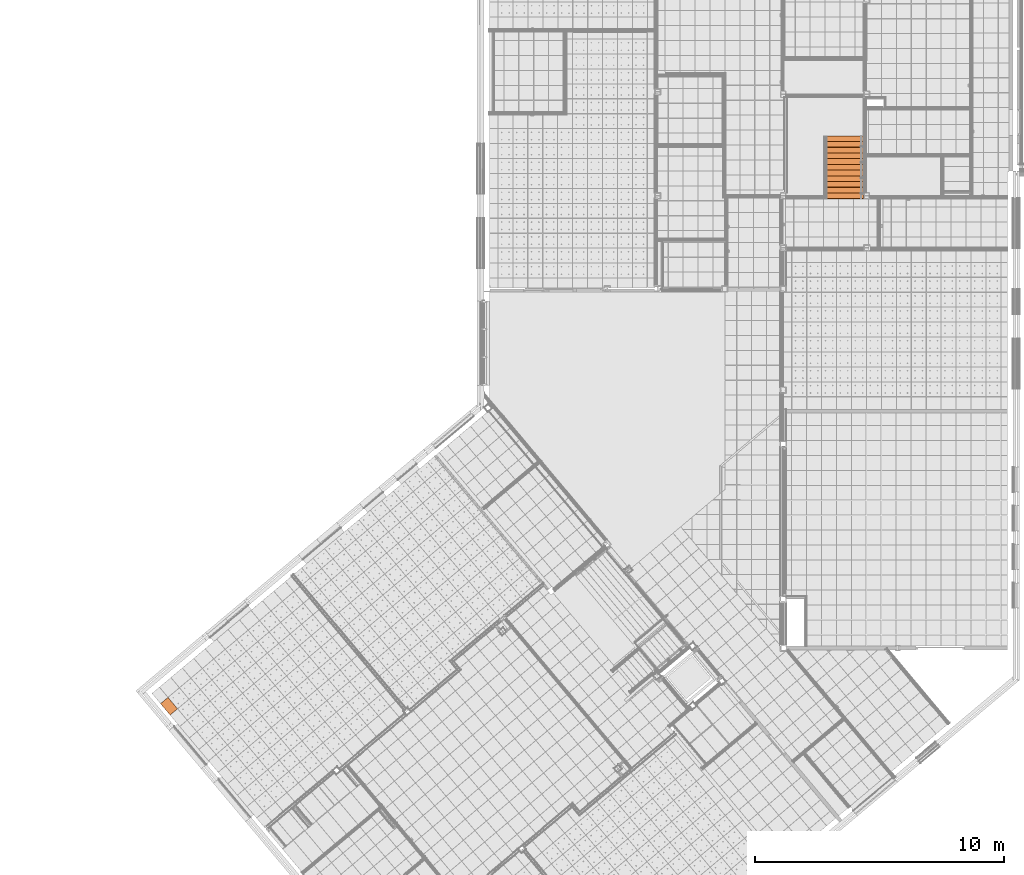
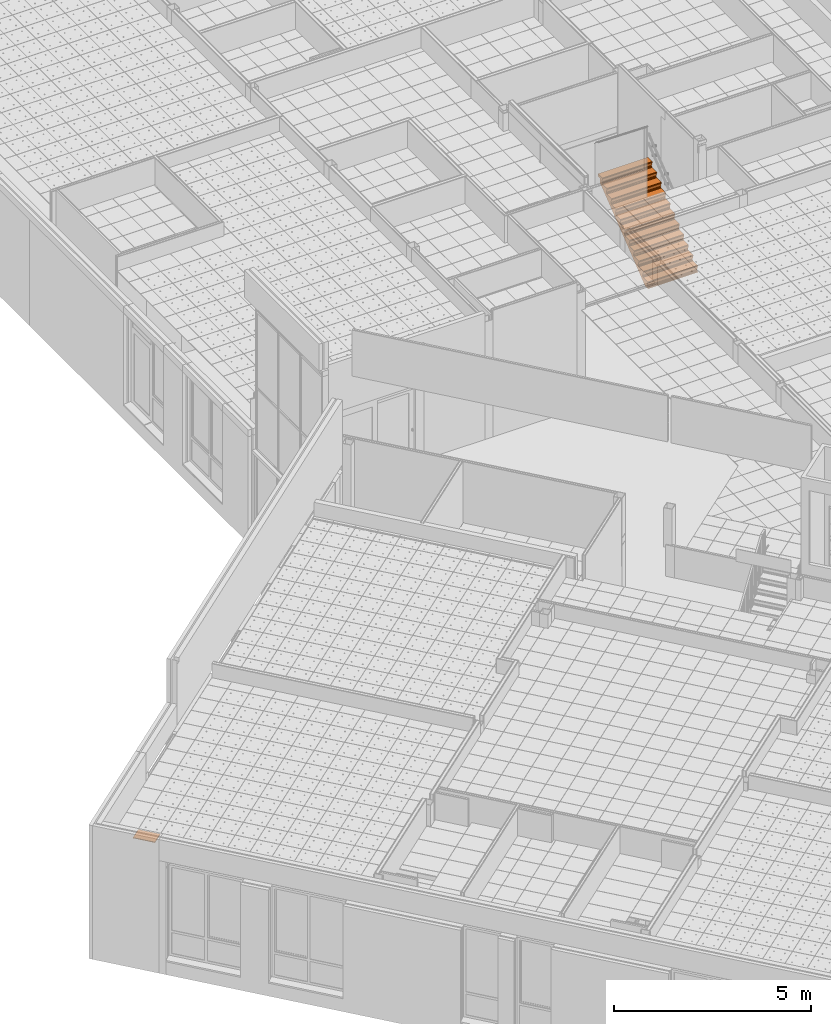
# One storey, part 198 of 338: 2 proxies, 1 element without a shape of its own.
"""IFC2X3 building model written with IfcOpenShell, lengths in millimetres."""

from ifc_helpers import new_model, entity, si_unit, converted_unit, derived_unit, money_unit, direction, frame, origin_with_axes, place, context, subcontext, project, spatial, faceted_brep, source, transform, mapped, material, type_object, type_shapes, element, aggregate, save


model = new_model("IFC2X3")

# Units and contexts
model_context = context("Model", 3, precision=0.01, world=origin_with_axes(), true_north=direction((0.0, 1.0)))
plan_context = context("Plan", 3, precision=0.01, world=origin_with_axes(), true_north=direction((0.0, 1.0)))
body_context = subcontext(model_context, "Body", "Model", "MODEL_VIEW")
ifc_project = project(units=[si_unit("LENGTHUNIT", "METRE", prefix="MILLI"), si_unit("AREAUNIT", "SQUARE_METRE"), si_unit("VOLUMEUNIT", "CUBIC_METRE"), converted_unit("PLANEANGLEUNIT", "DEGREE", entity("IfcPlaneAngleMeasure", 0.0174532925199), si_unit("PLANEANGLEUNIT", "RADIAN"), dimensions=[0, 0, 0, 0, 0, 0, 0]), money_unit("EUR"), converted_unit("TIMEUNIT", "Year", entity("IfcTimeMeasure", 31556926.0), si_unit("TIMEUNIT", "SECOND"), dimensions=[0, 0, 1, 0, 0, 0, 0]), si_unit("MASSUNIT", "GRAM", prefix="KILO"), si_unit("THERMODYNAMICTEMPERATUREUNIT", "DEGREE_CELSIUS"), si_unit("LUMINOUSINTENSITYUNIT", "LUMEN"), si_unit("ENERGYUNIT", "JOULE", prefix="MEGA"), derived_unit("THERMALCONDUCTANCEUNIT", [(si_unit("POWERUNIT", "WATT"), 1), (si_unit("LENGTHUNIT", "METRE"), -1), (si_unit("THERMODYNAMICTEMPERATUREUNIT", "KELVIN"), -1)]), derived_unit("SPECIFICHEATCAPACITYUNIT", [(si_unit("ENERGYUNIT", "JOULE"), 1), (si_unit("MASSUNIT", "GRAM", prefix="KILO"), -1), (si_unit("THERMODYNAMICTEMPERATUREUNIT", "KELVIN"), -1)]), derived_unit("MASSDENSITYUNIT", [(si_unit("MASSUNIT", "GRAM", prefix="KILO"), 1), (si_unit("VOLUMEUNIT", "CUBIC_METRE"), -1)])], contexts=[model_context, plan_context])

# Site, building, storey
site_placement = place(None, origin_with_axes())
site = spatial("IfcSite", under=ifc_project, at=site_placement, Name="Fortuinstraat Woensdrecht", CompositionType="ELEMENT")
building_placement = place(site_placement, origin_with_axes())
building = spatial("IfcBuilding", under=site, at=building_placement, Name="IKC Fortuna", CompositionType="ELEMENT")
storey_placement = place(building_placement, origin_with_axes())
storey = spatial("IfcBuildingStorey", under=building, at=storey_placement, Name="00 begane grond", CompositionType="ELEMENT", Elevation=0.0)

# Covering, proxy
covering_type = type_object("IfcCoveringType", Name="Curtain Wall Type", PredefinedType="CEILING")
covering_placement = place(storey_placement, frame((9775.85169731, -1002.28242867, 4660.0), z_axis=(0.0, 0.0, 1.0), x_axis=(1.0, 0.0, 0.0)))
covering = element("IfcCovering", 1, at=covering_placement, inside=storey, type_object=covering_type, Name="45_Plafondafwerking_P01", PredefinedType="CEILING")
ifc_material = material(Name="Gipsplaat")
building_element_proxy_type_1 = type_object("IfcBuildingElementProxyType", Name="394 x 600 x 20", PredefinedType="NOTDEFINED")
shared_shape_1 = source(origin_with_axes(), body_context, "Body", "Brep", [
    faceted_brep([(2.50000085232, 2.50001032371, -10.0), (391.98041436, 2.50000383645, -10.0), (391.98041436, 2.50000383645, 10.0), (2.50000085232, 2.50001032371, 10.0), (2.4999985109, 597.500005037, -10.0), (391.980418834, 597.500006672, -10.0), (391.980418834, 597.500006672, 10.0), (2.4999985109, 597.500005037, 10.0)], [[[0, 1, 2, 3]], [[0, 4, 5, 1]], [[1, 5, 6, 2]], [[3, 2, 6, 7]], [[4, 0, 3, 7]], [[5, 4, 7, 6]]]),
])
type_shapes(building_element_proxy_type_1, [shared_shape_1])
proxy_1_placement = place(covering_placement, frame((-8833.90053587, 419.918930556, 2.32702745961e-10), z_axis=(0.0, 0.0, 1.0), x_axis=(1.0, 0.0, 0.0)))
proxy_1 = element("IfcBuildingElementProxy", 2, at=proxy_1_placement, type_object=building_element_proxy_type_1, material=ifc_material, Name="__600x653 Rockfon Krios", context=body_context, shape_type="MappedRepresentation", body=[
    mapped(shared_shape_1, transform((-41.7416082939, 356.596884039, 0.0), x_axis=(-0.766044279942, -0.642787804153, 0.0), y_axis=(0.642787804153, -0.766044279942, 0.0), z_axis=(0.0, 0.0, 1.0))),
])
aggregate(covering, [proxy_1])

# Proxy
building_element_proxy_type_2 = type_object("IfcBuildingElementProxyType", Name="Trapelement beton 25 KM", PredefinedType="NOTDEFINED")
shared_shape_2 = source(origin_with_axes(), body_context, "Body", "Brep", [
    faceted_brep([(0.0, 0.0, -30.0), (0.0, 0.0, 0.0), (0.0, 1460.0, 0.0), (0.0, 1460.0, -30.0), (3.49953368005, 0.0, -7.71975380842e-06), (136.20230231, 0.0, -30.0), (296.975858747, 0.0, 97.0937205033), (230.0, 0.0, 181.818181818), (10.0, 0.0, 181.818181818), (6.17316567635, 0.0, 181.056977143), (2.92893218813, 0.0, 178.88924963), (0.761204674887, 0.0, 175.645016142), (0.0, 0.0, 171.818181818), (0.0, 0.0, 156.95), (37.59, 0.0, 53.68), (38.7845888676, 0.0, 50.3920369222), (39.9999489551, 0.0, 43.4992984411), (39.9999335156, 0.0, 36.500231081), (38.7845430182, 0.0, 29.6074979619), (36.3907064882, 0.0, 23.0305312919), (32.8911594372, 0.0, 16.969168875), (28.3922338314, 0.0, 11.6075821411), (23.0306272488, 0.0, 7.10868019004), (16.9692493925, 0.0, 3.609159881), (10.3922721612, 0.0, 1.21535236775), (3.49953368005, 1460.0, -7.71975390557e-06), (0.0, 1460.0, 156.95), (0.0, 1460.0, 171.818181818), (0.761204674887, 1460.0, 175.645016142), (2.92893218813, 1460.0, 178.88924963), (6.17316567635, 1460.0, 181.056977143), (10.0, 1460.0, 181.818181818), (230.0, 1460.0, 181.818181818), (296.975858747, 1460.0, 97.0937205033), (136.20230231, 1460.0, -30.0), (10.3922721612, 1460.0, 1.21535236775), (16.9692493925, 1460.0, 3.609159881), (23.0306272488, 1460.0, 7.10868019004), (28.3922338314, 1460.0, 11.6075821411), (32.8911594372, 1460.0, 16.969168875), (36.3907064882, 1460.0, 23.0305312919), (38.7845430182, 1460.0, 29.6074979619), (39.9999335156, 1460.0, 36.500231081), (39.9999489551, 1460.0, 43.4992984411), (38.7845888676, 1460.0, 50.3920369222), (37.59, 1460.0, 53.68)], [[[0, 1, 2, 3]], [[4, 1, 0, 5, 6, 7, 8, 9, 10, 11, 12, 13, 14, 15, 16, 17, 18, 19, 20, 21, 22, 23, 24]], [[1, 4, 25, 2]], [[26, 27, 28, 29, 30, 31, 32, 33, 34, 3, 2, 25, 35, 36, 37, 38, 39, 40, 41, 42, 43, 44, 45]], [[0, 3, 34, 5]], [[6, 5, 34, 33]], [[7, 6, 33, 32]], [[8, 7, 32, 31]], [[9, 8, 31, 30]], [[29, 10, 9, 30]], [[11, 10, 29, 28]], [[12, 11, 28, 27]], [[13, 12, 27, 26]], [[13, 26, 45, 14]], [[15, 14, 45, 44]], [[16, 15, 44, 43]], [[17, 16, 43, 42]], [[18, 17, 42, 41]], [[19, 18, 41, 40]], [[20, 19, 40, 39]], [[21, 20, 39, 38]], [[22, 21, 38, 37]], [[23, 22, 37, 36]], [[24, 23, 36, 35]], [[25, 4, 24, 35]]]),
    faceted_brep([(460.0, 1460.0, 363.636363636), (240.0, 1460.0, 363.636363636), (240.0, 0.0, 363.636363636), (460.0, 0.0, 363.636363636), (526.975858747, 1460.0, 278.911902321), (296.975858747, 1460.0, 97.0937205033), (230.0, 1460.0, 181.818181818), (233.49953368, 1460.0, 181.818174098), (240.392272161, 1460.0, 183.033534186), (246.969249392, 1460.0, 185.427341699), (253.030627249, 1460.0, 188.926862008), (258.392233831, 1460.0, 193.425763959), (261.225007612, 1460.0, 196.818181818), (262.891159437, 1460.0, 198.787350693), (266.390706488, 1460.0, 204.84871311), (268.784543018, 1460.0, 211.42567978), (269.999933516, 1460.0, 218.318412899), (269.999948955, 1460.0, 225.317480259), (268.784588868, 1460.0, 232.21021874), (267.59, 1460.0, 235.498181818), (230.0, 1460.0, 338.768181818), (230.0, 1460.0, 353.636363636), (230.761204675, 1460.0, 357.46319796), (232.928932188, 1460.0, 360.707431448), (236.173165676, 1460.0, 362.875158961), (236.173165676, 0.0, 362.875158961), (232.928932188, 0.0, 360.707431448), (230.761204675, 0.0, 357.46319796), (230.0, 0.0, 353.636363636), (230.0, 0.0, 338.768181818), (267.59, 0.0, 235.498181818), (268.784588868, 0.0, 232.21021874), (269.999948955, 0.0, 225.317480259), (269.999933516, 0.0, 218.318412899), (268.784543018, 0.0, 211.42567978), (266.390706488, 0.0, 204.84871311), (262.891159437, 0.0, 198.787350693), (261.225007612, 0.0, 196.818181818), (258.392233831, 0.0, 193.425763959), (253.030627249, 0.0, 188.926862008), (246.969249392, 0.0, 185.427341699), (240.392272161, 0.0, 183.033534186), (233.49953368, 0.0, 181.818174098), (230.0, 0.0, 181.818181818), (296.975858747, 0.0, 97.0937205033), (526.975858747, 0.0, 278.911902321)], [[[0, 1, 2, 3]], [[0, 4, 5, 6, 7, 8, 9, 10, 11, 12, 13, 14, 15, 16, 17, 18, 19, 20, 21, 22, 23, 24, 1]], [[1, 24, 25, 2]], [[3, 2, 25, 26, 27, 28, 29, 30, 31, 32, 33, 34, 35, 36, 37, 38, 39, 40, 41, 42, 43, 44, 45]], [[4, 0, 3, 45]], [[5, 4, 45, 44]], [[6, 5, 44, 43]], [[7, 6, 43, 42]], [[8, 7, 42, 41]], [[9, 8, 41, 40]], [[10, 9, 40, 39]], [[11, 10, 39, 38]], [[12, 11, 38, 37]], [[13, 12, 37, 36]], [[14, 13, 36, 35]], [[15, 14, 35, 34]], [[16, 15, 34, 33]], [[17, 16, 33, 32]], [[18, 17, 32, 31]], [[19, 18, 31, 30]], [[20, 19, 30, 29]], [[21, 20, 29, 28]], [[22, 21, 28, 27]], [[23, 22, 27, 26]], [[24, 23, 26, 25]]]),
    faceted_brep([(690.0, 1460.0, 545.454545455), (470.0, 1460.0, 545.454545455), (470.0, 0.0, 545.454545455), (690.0, 0.0, 545.454545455), (756.975858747, 1460.0, 460.73008414), (526.975858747, 1460.0, 278.911902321), (460.0, 1460.0, 363.636363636), (463.49953368, 1460.0, 363.636355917), (470.392272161, 1460.0, 364.851716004), (476.969249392, 1460.0, 367.245523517), (483.030627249, 1460.0, 370.745043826), (488.392233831, 1460.0, 375.243945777), (491.225007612, 1460.0, 378.636363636), (492.891159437, 1460.0, 380.605532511), (496.390706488, 1460.0, 386.666894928), (498.784543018, 1460.0, 393.243861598), (499.999933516, 1460.0, 400.136594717), (499.999948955, 1460.0, 407.135662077), (498.784588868, 1460.0, 414.028400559), (497.59, 1460.0, 417.316363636), (460.0, 1460.0, 520.586363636), (460.0, 1460.0, 535.454545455), (460.761204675, 1460.0, 539.281379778), (462.928932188, 1460.0, 542.525613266), (466.173165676, 1460.0, 544.69334078), (466.173165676, 0.0, 544.69334078), (462.928932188, 0.0, 542.525613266), (460.761204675, 0.0, 539.281379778), (460.0, 0.0, 535.454545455), (460.0, 0.0, 520.586363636), (497.59, 0.0, 417.316363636), (498.784588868, 0.0, 414.028400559), (499.999948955, 0.0, 407.135662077), (499.999933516, 0.0, 400.136594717), (498.784543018, 0.0, 393.243861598), (496.390706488, 0.0, 386.666894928), (492.891159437, 0.0, 380.605532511), (491.225007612, 0.0, 378.636363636), (488.392233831, 0.0, 375.243945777), (483.030627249, 0.0, 370.745043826), (476.969249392, 0.0, 367.245523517), (470.392272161, 0.0, 364.851716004), (463.49953368, 0.0, 363.636355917), (460.0, 0.0, 363.636363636), (526.975858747, 0.0, 278.911902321), (756.975858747, 0.0, 460.73008414)], [[[0, 1, 2, 3]], [[0, 4, 5, 6, 7, 8, 9, 10, 11, 12, 13, 14, 15, 16, 17, 18, 19, 20, 21, 22, 23, 24, 1]], [[1, 24, 25, 2]], [[3, 2, 25, 26, 27, 28, 29, 30, 31, 32, 33, 34, 35, 36, 37, 38, 39, 40, 41, 42, 43, 44, 45]], [[4, 0, 3, 45]], [[5, 4, 45, 44]], [[6, 5, 44, 43]], [[7, 6, 43, 42]], [[8, 7, 42, 41]], [[9, 8, 41, 40]], [[10, 9, 40, 39]], [[11, 10, 39, 38]], [[12, 11, 38, 37]], [[13, 12, 37, 36]], [[14, 13, 36, 35]], [[15, 14, 35, 34]], [[16, 15, 34, 33]], [[17, 16, 33, 32]], [[18, 17, 32, 31]], [[19, 18, 31, 30]], [[20, 19, 30, 29]], [[21, 20, 29, 28]], [[22, 21, 28, 27]], [[23, 22, 27, 26]], [[24, 23, 26, 25]]]),
    faceted_brep([(920.0, 1460.0, 727.272727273), (700.0, 1460.0, 727.272727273), (700.0, 0.0, 727.272727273), (920.0, 0.0, 727.272727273), (986.975858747, 1460.0, 642.548265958), (756.975858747, 1460.0, 460.73008414), (690.0, 1460.0, 545.454545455), (693.49953368, 1460.0, 545.454537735), (700.392272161, 1460.0, 546.669897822), (706.969249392, 1460.0, 549.063705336), (713.030627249, 1460.0, 552.563225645), (718.392233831, 1460.0, 557.062127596), (721.225007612, 1460.0, 560.454545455), (722.891159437, 1460.0, 562.42371433), (726.390706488, 1460.0, 568.485076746), (728.784543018, 1460.0, 575.062043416), (729.999933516, 1460.0, 581.954776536), (729.999948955, 1460.0, 588.953843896), (728.784588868, 1460.0, 595.846582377), (727.59, 1460.0, 599.134545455), (690.0, 1460.0, 702.404545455), (690.0, 1460.0, 717.272727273), (690.761204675, 1460.0, 721.099561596), (692.928932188, 1460.0, 724.343795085), (696.173165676, 1460.0, 726.511522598), (696.173165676, 0.0, 726.511522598), (692.928932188, 0.0, 724.343795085), (690.761204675, 0.0, 721.099561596), (690.0, 0.0, 717.272727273), (690.0, 0.0, 702.404545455), (727.59, 0.0, 599.134545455), (728.784588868, 0.0, 595.846582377), (729.999948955, 0.0, 588.953843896), (729.999933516, 0.0, 581.954776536), (728.784543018, 0.0, 575.062043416), (726.390706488, 0.0, 568.485076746), (722.891159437, 0.0, 562.42371433), (721.225007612, 0.0, 560.454545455), (718.392233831, 0.0, 557.062127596), (713.030627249, 0.0, 552.563225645), (706.969249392, 0.0, 549.063705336), (700.392272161, 0.0, 546.669897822), (693.49953368, 0.0, 545.454537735), (690.0, 0.0, 545.454545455), (756.975858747, 0.0, 460.73008414), (986.975858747, 0.0, 642.548265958)], [[[0, 1, 2, 3]], [[0, 4, 5, 6, 7, 8, 9, 10, 11, 12, 13, 14, 15, 16, 17, 18, 19, 20, 21, 22, 23, 24, 1]], [[1, 24, 25, 2]], [[3, 2, 25, 26, 27, 28, 29, 30, 31, 32, 33, 34, 35, 36, 37, 38, 39, 40, 41, 42, 43, 44, 45]], [[4, 0, 3, 45]], [[5, 4, 45, 44]], [[6, 5, 44, 43]], [[7, 6, 43, 42]], [[8, 7, 42, 41]], [[9, 8, 41, 40]], [[10, 9, 40, 39]], [[11, 10, 39, 38]], [[12, 11, 38, 37]], [[13, 12, 37, 36]], [[14, 13, 36, 35]], [[15, 14, 35, 34]], [[16, 15, 34, 33]], [[17, 16, 33, 32]], [[18, 17, 32, 31]], [[19, 18, 31, 30]], [[20, 19, 30, 29]], [[21, 20, 29, 28]], [[22, 21, 28, 27]], [[23, 22, 27, 26]], [[24, 23, 26, 25]]]),
    faceted_brep([(1150.0, 1460.0, 909.090909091), (930.0, 1460.0, 909.090909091), (930.0, 0.0, 909.090909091), (1150.0, 0.0, 909.090909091), (1216.97585875, 1460.0, 824.366447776), (986.975858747, 1460.0, 642.548265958), (920.0, 1460.0, 727.272727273), (923.49953368, 1460.0, 727.272719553), (930.392272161, 1460.0, 728.48807964), (936.969249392, 1460.0, 730.881887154), (943.030627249, 1460.0, 734.381407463), (948.392233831, 1460.0, 738.880309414), (951.225007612, 1460.0, 742.272727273), (952.891159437, 1460.0, 744.241896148), (956.390706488, 1460.0, 750.303258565), (958.784543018, 1460.0, 756.880225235), (959.999933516, 1460.0, 763.772958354), (959.999948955, 1460.0, 770.772025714), (958.784588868, 1460.0, 777.664764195), (957.59, 1460.0, 780.952727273), (920.0, 1460.0, 884.222727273), (920.0, 1460.0, 899.090909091), (920.761204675, 1460.0, 902.917743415), (922.928932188, 1460.0, 906.161976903), (926.173165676, 1460.0, 908.329704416), (926.173165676, 0.0, 908.329704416), (922.928932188, 0.0, 906.161976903), (920.761204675, 0.0, 902.917743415), (920.0, 0.0, 899.090909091), (920.0, 0.0, 884.222727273), (957.59, 0.0, 780.952727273), (958.784588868, 0.0, 777.664764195), (959.999948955, 0.0, 770.772025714), (959.999933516, 0.0, 763.772958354), (958.784543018, 0.0, 756.880225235), (956.390706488, 0.0, 750.303258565), (952.891159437, 0.0, 744.241896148), (951.225007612, 0.0, 742.272727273), (948.392233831, 0.0, 738.880309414), (943.030627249, 0.0, 734.381407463), (936.969249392, 0.0, 730.881887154), (930.392272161, 0.0, 728.48807964), (923.49953368, 0.0, 727.272719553), (920.0, 0.0, 727.272727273), (986.975858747, 0.0, 642.548265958), (1216.97585875, 0.0, 824.366447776)], [[[0, 1, 2, 3]], [[0, 4, 5, 6, 7, 8, 9, 10, 11, 12, 13, 14, 15, 16, 17, 18, 19, 20, 21, 22, 23, 24, 1]], [[1, 24, 25, 2]], [[3, 2, 25, 26, 27, 28, 29, 30, 31, 32, 33, 34, 35, 36, 37, 38, 39, 40, 41, 42, 43, 44, 45]], [[4, 0, 3, 45]], [[5, 4, 45, 44]], [[6, 5, 44, 43]], [[7, 6, 43, 42]], [[8, 7, 42, 41]], [[9, 8, 41, 40]], [[10, 9, 40, 39]], [[11, 10, 39, 38]], [[12, 11, 38, 37]], [[13, 12, 37, 36]], [[14, 13, 36, 35]], [[15, 14, 35, 34]], [[16, 15, 34, 33]], [[17, 16, 33, 32]], [[18, 17, 32, 31]], [[19, 18, 31, 30]], [[20, 19, 30, 29]], [[21, 20, 29, 28]], [[22, 21, 28, 27]], [[23, 22, 27, 26]], [[24, 23, 26, 25]]]),
    faceted_brep([(1380.0, 1460.0, 1090.90909091), (1160.0, 1460.0, 1090.90909091), (1160.0, 0.0, 1090.90909091), (1380.0, 0.0, 1090.90909091), (1446.97585875, 1460.0, 1006.18462959), (1216.97585875, 1460.0, 824.366447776), (1150.0, 1460.0, 909.090909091), (1153.49953368, 1460.0, 909.090901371), (1160.39227216, 1460.0, 910.306261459), (1166.96924939, 1460.0, 912.700068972), (1173.03062725, 1460.0, 916.199589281), (1178.39223383, 1460.0, 920.698491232), (1181.22500761, 1460.0, 924.090909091), (1182.89115944, 1460.0, 926.060077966), (1186.39070649, 1460.0, 932.121440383), (1188.78454302, 1460.0, 938.698407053), (1189.99993352, 1460.0, 945.591140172), (1189.99994896, 1460.0, 952.590207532), (1188.78458887, 1460.0, 959.482946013), (1187.59, 1460.0, 962.770909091), (1150.0, 1460.0, 1066.04090909), (1150.0, 1460.0, 1080.90909091), (1150.76120467, 1460.0, 1084.73592523), (1152.92893219, 1460.0, 1087.98015872), (1156.17316568, 1460.0, 1090.14788623), (1156.17316568, 0.0, 1090.14788623), (1152.92893219, 0.0, 1087.98015872), (1150.76120467, 0.0, 1084.73592523), (1150.0, 0.0, 1080.90909091), (1150.0, 0.0, 1066.04090909), (1187.59, 0.0, 962.770909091), (1188.78458887, 0.0, 959.482946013), (1189.99994896, 0.0, 952.590207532), (1189.99993352, 0.0, 945.591140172), (1188.78454302, 0.0, 938.698407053), (1186.39070649, 0.0, 932.121440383), (1182.89115944, 0.0, 926.060077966), (1181.22500761, 0.0, 924.090909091), (1178.39223383, 0.0, 920.698491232), (1173.03062725, 0.0, 916.199589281), (1166.96924939, 0.0, 912.700068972), (1160.39227216, 0.0, 910.306261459), (1153.49953368, 0.0, 909.090901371), (1150.0, 0.0, 909.090909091), (1216.97585875, 0.0, 824.366447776), (1446.97585875, 0.0, 1006.18462959)], [[[0, 1, 2, 3]], [[0, 4, 5, 6, 7, 8, 9, 10, 11, 12, 13, 14, 15, 16, 17, 18, 19, 20, 21, 22, 23, 24, 1]], [[1, 24, 25, 2]], [[3, 2, 25, 26, 27, 28, 29, 30, 31, 32, 33, 34, 35, 36, 37, 38, 39, 40, 41, 42, 43, 44, 45]], [[4, 0, 3, 45]], [[5, 4, 45, 44]], [[6, 5, 44, 43]], [[7, 6, 43, 42]], [[8, 7, 42, 41]], [[9, 8, 41, 40]], [[10, 9, 40, 39]], [[11, 10, 39, 38]], [[12, 11, 38, 37]], [[13, 12, 37, 36]], [[14, 13, 36, 35]], [[15, 14, 35, 34]], [[16, 15, 34, 33]], [[17, 16, 33, 32]], [[18, 17, 32, 31]], [[19, 18, 31, 30]], [[20, 19, 30, 29]], [[21, 20, 29, 28]], [[22, 21, 28, 27]], [[23, 22, 27, 26]], [[24, 23, 26, 25]]]),
    faceted_brep([(1610.0, 1460.0, 1272.72727273), (1390.0, 1460.0, 1272.72727273), (1390.0, 0.0, 1272.72727273), (1610.0, 0.0, 1272.72727273), (1676.97585875, 1460.0, 1188.00281141), (1446.97585875, 1460.0, 1006.18462959), (1380.0, 1460.0, 1090.90909091), (1383.49953368, 1460.0, 1090.90908319), (1390.39227216, 1460.0, 1092.12444328), (1396.96924939, 1460.0, 1094.51825079), (1403.03062725, 1460.0, 1098.0177711), (1408.39223383, 1460.0, 1102.51667305), (1411.22500761, 1460.0, 1105.90909091), (1412.89115944, 1460.0, 1107.87825978), (1416.39070649, 1460.0, 1113.9396222), (1418.78454302, 1460.0, 1120.51658887), (1419.99993352, 1460.0, 1127.40932199), (1419.99994896, 1460.0, 1134.40838935), (1418.78458887, 1460.0, 1141.30112783), (1417.59, 1460.0, 1144.58909091), (1380.0, 1460.0, 1247.85909091), (1380.0, 1460.0, 1262.72727273), (1380.76120467, 1460.0, 1266.55410705), (1382.92893219, 1460.0, 1269.79834054), (1386.17316568, 1460.0, 1271.96606805), (1386.17316568, 0.0, 1271.96606805), (1382.92893219, 0.0, 1269.79834054), (1380.76120467, 0.0, 1266.55410705), (1380.0, 0.0, 1262.72727273), (1380.0, 0.0, 1247.85909091), (1417.59, 0.0, 1144.58909091), (1418.78458887, 0.0, 1141.30112783), (1419.99994896, 0.0, 1134.40838935), (1419.99993352, 0.0, 1127.40932199), (1418.78454302, 0.0, 1120.51658887), (1416.39070649, 0.0, 1113.9396222), (1412.89115944, 0.0, 1107.87825978), (1411.22500761, 0.0, 1105.90909091), (1408.39223383, 0.0, 1102.51667305), (1403.03062725, 0.0, 1098.0177711), (1396.96924939, 0.0, 1094.51825079), (1390.39227216, 0.0, 1092.12444328), (1383.49953368, 0.0, 1090.90908319), (1380.0, 0.0, 1090.90909091), (1446.97585875, 0.0, 1006.18462959), (1676.97585875, 0.0, 1188.00281141)], [[[0, 1, 2, 3]], [[0, 4, 5, 6, 7, 8, 9, 10, 11, 12, 13, 14, 15, 16, 17, 18, 19, 20, 21, 22, 23, 24, 1]], [[1, 24, 25, 2]], [[3, 2, 25, 26, 27, 28, 29, 30, 31, 32, 33, 34, 35, 36, 37, 38, 39, 40, 41, 42, 43, 44, 45]], [[4, 0, 3, 45]], [[5, 4, 45, 44]], [[6, 5, 44, 43]], [[7, 6, 43, 42]], [[8, 7, 42, 41]], [[9, 8, 41, 40]], [[10, 9, 40, 39]], [[11, 10, 39, 38]], [[12, 11, 38, 37]], [[13, 12, 37, 36]], [[14, 13, 36, 35]], [[15, 14, 35, 34]], [[16, 15, 34, 33]], [[17, 16, 33, 32]], [[18, 17, 32, 31]], [[19, 18, 31, 30]], [[20, 19, 30, 29]], [[21, 20, 29, 28]], [[22, 21, 28, 27]], [[23, 22, 27, 26]], [[24, 23, 26, 25]]]),
    faceted_brep([(1840.0, 1460.0, 1454.54545455), (1620.0, 1460.0, 1454.54545455), (1620.0, 0.0, 1454.54545455), (1840.0, 0.0, 1454.54545455), (1906.97585875, 1460.0, 1369.82099323), (1676.97585875, 1460.0, 1188.00281141), (1610.0, 1460.0, 1272.72727273), (1613.49953368, 1460.0, 1272.72726501), (1620.39227216, 1460.0, 1273.9426251), (1626.96924939, 1460.0, 1276.33643261), (1633.03062725, 1460.0, 1279.83595292), (1638.39223383, 1460.0, 1284.33485487), (1641.22500761, 1460.0, 1287.72727273), (1642.89115944, 1460.0, 1289.6964416), (1646.39070649, 1460.0, 1295.75780402), (1648.78454302, 1460.0, 1302.33477069), (1649.99993352, 1460.0, 1309.22750381), (1649.99994896, 1460.0, 1316.22657117), (1648.78458887, 1460.0, 1323.11930965), (1647.59, 1460.0, 1326.40727273), (1610.0, 1460.0, 1429.67727273), (1610.0, 1460.0, 1444.54545455), (1610.76120467, 1460.0, 1448.37228887), (1612.92893219, 1460.0, 1451.61652236), (1616.17316568, 1460.0, 1453.78424987), (1616.17316568, 0.0, 1453.78424987), (1612.92893219, 0.0, 1451.61652236), (1610.76120467, 0.0, 1448.37228887), (1610.0, 0.0, 1444.54545455), (1610.0, 0.0, 1429.67727273), (1647.59, 0.0, 1326.40727273), (1648.78458887, 0.0, 1323.11930965), (1649.99994896, 0.0, 1316.22657117), (1649.99993352, 0.0, 1309.22750381), (1648.78454302, 0.0, 1302.33477069), (1646.39070649, 0.0, 1295.75780402), (1642.89115944, 0.0, 1289.6964416), (1641.22500761, 0.0, 1287.72727273), (1638.39223383, 0.0, 1284.33485487), (1633.03062725, 0.0, 1279.83595292), (1626.96924939, 0.0, 1276.33643261), (1620.39227216, 0.0, 1273.9426251), (1613.49953368, 0.0, 1272.72726501), (1610.0, 0.0, 1272.72727273), (1676.97585875, 0.0, 1188.00281141), (1906.97585875, 0.0, 1369.82099323)], [[[0, 1, 2, 3]], [[0, 4, 5, 6, 7, 8, 9, 10, 11, 12, 13, 14, 15, 16, 17, 18, 19, 20, 21, 22, 23, 24, 1]], [[1, 24, 25, 2]], [[3, 2, 25, 26, 27, 28, 29, 30, 31, 32, 33, 34, 35, 36, 37, 38, 39, 40, 41, 42, 43, 44, 45]], [[4, 0, 3, 45]], [[5, 4, 45, 44]], [[6, 5, 44, 43]], [[7, 6, 43, 42]], [[8, 7, 42, 41]], [[9, 8, 41, 40]], [[10, 9, 40, 39]], [[11, 10, 39, 38]], [[12, 11, 38, 37]], [[13, 12, 37, 36]], [[14, 13, 36, 35]], [[15, 14, 35, 34]], [[16, 15, 34, 33]], [[17, 16, 33, 32]], [[18, 17, 32, 31]], [[19, 18, 31, 30]], [[20, 19, 30, 29]], [[21, 20, 29, 28]], [[22, 21, 28, 27]], [[23, 22, 27, 26]], [[24, 23, 26, 25]]]),
    faceted_brep([(2070.0, 1460.0, 1636.36363636), (1850.0, 1460.0, 1636.36363636), (1850.0, 0.0, 1636.36363636), (2070.0, 0.0, 1636.36363636), (2136.97585875, 1460.0, 1551.63917505), (1906.97585875, 1460.0, 1369.82099323), (1840.0, 1460.0, 1454.54545455), (1843.49953368, 1460.0, 1454.54544683), (1850.39227216, 1460.0, 1455.76080691), (1856.96924939, 1460.0, 1458.15461443), (1863.03062725, 1460.0, 1461.65413474), (1868.39223383, 1460.0, 1466.15303669), (1871.22500761, 1460.0, 1469.54545455), (1872.89115944, 1460.0, 1471.51462342), (1876.39070649, 1460.0, 1477.57598584), (1878.78454302, 1460.0, 1484.15295251), (1879.99993352, 1460.0, 1491.04568563), (1879.99994896, 1460.0, 1498.04475299), (1878.78458887, 1460.0, 1504.93749147), (1877.59, 1460.0, 1508.22545455), (1840.0, 1460.0, 1611.49545455), (1840.0, 1460.0, 1626.36363636), (1840.76120467, 1460.0, 1630.19047069), (1842.92893219, 1460.0, 1633.43470418), (1846.17316568, 1460.0, 1635.60243169), (1846.17316568, 0.0, 1635.60243169), (1842.92893219, 0.0, 1633.43470418), (1840.76120467, 0.0, 1630.19047069), (1840.0, 0.0, 1626.36363636), (1840.0, 0.0, 1611.49545455), (1877.59, 0.0, 1508.22545455), (1878.78458887, 0.0, 1504.93749147), (1879.99994896, 0.0, 1498.04475299), (1879.99993352, 0.0, 1491.04568563), (1878.78454302, 0.0, 1484.15295251), (1876.39070649, 0.0, 1477.57598584), (1872.89115944, 0.0, 1471.51462342), (1871.22500761, 0.0, 1469.54545455), (1868.39223383, 0.0, 1466.15303669), (1863.03062725, 0.0, 1461.65413474), (1856.96924939, 0.0, 1458.15461443), (1850.39227216, 0.0, 1455.76080691), (1843.49953368, 0.0, 1454.54544683), (1840.0, 0.0, 1454.54545455), (1906.97585875, 0.0, 1369.82099323), (2136.97585875, 0.0, 1551.63917505)], [[[0, 1, 2, 3]], [[0, 4, 5, 6, 7, 8, 9, 10, 11, 12, 13, 14, 15, 16, 17, 18, 19, 20, 21, 22, 23, 24, 1]], [[1, 24, 25, 2]], [[3, 2, 25, 26, 27, 28, 29, 30, 31, 32, 33, 34, 35, 36, 37, 38, 39, 40, 41, 42, 43, 44, 45]], [[4, 0, 3, 45]], [[5, 4, 45, 44]], [[6, 5, 44, 43]], [[7, 6, 43, 42]], [[8, 7, 42, 41]], [[9, 8, 41, 40]], [[10, 9, 40, 39]], [[11, 10, 39, 38]], [[12, 11, 38, 37]], [[13, 12, 37, 36]], [[14, 13, 36, 35]], [[15, 14, 35, 34]], [[16, 15, 34, 33]], [[17, 16, 33, 32]], [[18, 17, 32, 31]], [[19, 18, 31, 30]], [[20, 19, 30, 29]], [[21, 20, 29, 28]], [[22, 21, 28, 27]], [[23, 22, 27, 26]], [[24, 23, 26, 25]]]),
    faceted_brep([(2300.0, 1460.0, 1818.18181818), (2080.0, 1460.0, 1818.18181818), (2080.0, 0.0, 1818.18181818), (2300.0, 0.0, 1818.18181818), (2366.97585875, 1460.0, 1733.45735687), (2136.97585875, 1460.0, 1551.63917505), (2070.0, 1460.0, 1636.36363636), (2073.49953368, 1460.0, 1636.36362864), (2080.39227216, 1460.0, 1637.57898873), (2086.96924939, 1460.0, 1639.97279624), (2093.03062725, 1460.0, 1643.47231655), (2098.39223383, 1460.0, 1647.9712185), (2101.22500761, 1460.0, 1651.36363636), (2102.89115944, 1460.0, 1653.33280524), (2106.39070649, 1460.0, 1659.39416766), (2108.78454302, 1460.0, 1665.97113433), (2109.99993352, 1460.0, 1672.86386744), (2109.99994896, 1460.0, 1679.8629348), (2108.78458887, 1460.0, 1686.75567329), (2107.59, 1460.0, 1690.04363636), (2070.0, 1460.0, 1793.31363636), (2070.0, 1460.0, 1808.18181818), (2070.76120467, 1460.0, 1812.00865251), (2072.92893219, 1460.0, 1815.25288599), (2076.17316568, 1460.0, 1817.42061351), (2076.17316568, 0.0, 1817.42061351), (2072.92893219, 0.0, 1815.25288599), (2070.76120467, 0.0, 1812.00865251), (2070.0, 0.0, 1808.18181818), (2070.0, 0.0, 1793.31363636), (2107.59, 0.0, 1690.04363636), (2108.78458887, 0.0, 1686.75567329), (2109.99994896, 0.0, 1679.8629348), (2109.99993352, 0.0, 1672.86386744), (2108.78454302, 0.0, 1665.97113433), (2106.39070649, 0.0, 1659.39416766), (2102.89115944, 0.0, 1653.33280524), (2101.22500761, 0.0, 1651.36363636), (2098.39223383, 0.0, 1647.9712185), (2093.03062725, 0.0, 1643.47231655), (2086.96924939, 0.0, 1639.97279624), (2080.39227216, 0.0, 1637.57898873), (2073.49953368, 0.0, 1636.36362864), (2070.0, 0.0, 1636.36363636), (2136.97585875, 0.0, 1551.63917505), (2366.97585875, 0.0, 1733.45735687)], [[[0, 1, 2, 3]], [[0, 4, 5, 6, 7, 8, 9, 10, 11, 12, 13, 14, 15, 16, 17, 18, 19, 20, 21, 22, 23, 24, 1]], [[1, 24, 25, 2]], [[3, 2, 25, 26, 27, 28, 29, 30, 31, 32, 33, 34, 35, 36, 37, 38, 39, 40, 41, 42, 43, 44, 45]], [[4, 0, 3, 45]], [[5, 4, 45, 44]], [[6, 5, 44, 43]], [[7, 6, 43, 42]], [[8, 7, 42, 41]], [[9, 8, 41, 40]], [[10, 9, 40, 39]], [[11, 10, 39, 38]], [[12, 11, 38, 37]], [[13, 12, 37, 36]], [[14, 13, 36, 35]], [[15, 14, 35, 34]], [[16, 15, 34, 33]], [[17, 16, 33, 32]], [[18, 17, 32, 31]], [[19, 18, 31, 30]], [[20, 19, 30, 29]], [[21, 20, 29, 28]], [[22, 21, 28, 27]], [[23, 22, 27, 26]], [[24, 23, 26, 25]]]),
    faceted_brep([(2430.0, 1460.0, 1783.2788124), (2430.0, 1460.0, 1920.0), (2430.0, 0.0, 1920.0), (2430.0, 0.0, 1783.2788124), (2366.97585875, 1460.0, 1733.45735687), (2300.0, 1460.0, 1818.18181818), (2303.49953368, 1460.0, 1818.18181046), (2310.39227216, 1460.0, 1819.39717055), (2316.96924939, 1460.0, 1821.79097806), (2323.03062725, 1460.0, 1825.29049837), (2328.39223383, 1460.0, 1829.78940032), (2331.22500761, 1460.0, 1833.18181818), (2332.89115944, 1460.0, 1835.15098706), (2336.39070649, 1460.0, 1841.21234947), (2338.78454302, 1460.0, 1847.78931614), (2339.99993352, 1460.0, 1854.68204926), (2339.99994896, 1460.0, 1861.68111662), (2338.78458887, 1460.0, 1868.5738551), (2337.59, 1460.0, 1871.86181818), (2300.0, 1460.0, 1975.13181818), (2300.0, 1460.0, 1990.0), (2300.76120467, 1460.0, 1993.82683432), (2302.92893219, 1460.0, 1997.07106781), (2306.17316568, 1460.0, 1999.23879533), (2310.0, 1460.0, 2000.0), (2530.0, 1460.0, 2000.0), (2530.0, 1460.0, 1920.0), (2530.0, 0.0, 1920.0), (2530.0, 0.0, 2000.0), (2310.0, 0.0, 2000.0), (2306.17316568, 0.0, 1999.23879533), (2302.92893219, 0.0, 1997.07106781), (2300.76120467, 0.0, 1993.82683432), (2300.0, 0.0, 1990.0), (2300.0, 0.0, 1975.13181818), (2337.59, 0.0, 1871.86181818), (2338.78458887, 0.0, 1868.5738551), (2339.99994896, 0.0, 1861.68111662), (2339.99993352, 0.0, 1854.68204926), (2338.78454302, 0.0, 1847.78931614), (2336.39070649, 0.0, 1841.21234947), (2332.89115944, 0.0, 1835.15098706), (2331.22500761, 0.0, 1833.18181818), (2328.39223383, 0.0, 1829.78940032), (2323.03062725, 0.0, 1825.29049837), (2316.96924939, 0.0, 1821.79097806), (2310.39227216, 0.0, 1819.39717055), (2303.49953368, 0.0, 1818.18181046), (2300.0, 0.0, 1818.18181818), (2366.97585875, 0.0, 1733.45735687)], [[[0, 1, 2, 3]], [[0, 4, 5, 6, 7, 8, 9, 10, 11, 12, 13, 14, 15, 16, 17, 18, 19, 20, 21, 22, 23, 24, 25, 26, 1]], [[1, 26, 27, 2]], [[3, 2, 27, 28, 29, 30, 31, 32, 33, 34, 35, 36, 37, 38, 39, 40, 41, 42, 43, 44, 45, 46, 47, 48, 49]], [[4, 0, 3, 49]], [[5, 4, 49, 48]], [[6, 5, 48, 47]], [[7, 6, 47, 46]], [[8, 7, 46, 45]], [[9, 8, 45, 44]], [[10, 9, 44, 43]], [[11, 10, 43, 42]], [[12, 11, 42, 41]], [[13, 12, 41, 40]], [[14, 13, 40, 39]], [[15, 14, 39, 38]], [[16, 15, 38, 37]], [[17, 16, 37, 36]], [[18, 17, 36, 35]], [[19, 18, 35, 34]], [[20, 19, 34, 33]], [[21, 20, 33, 32]], [[22, 21, 32, 31]], [[23, 22, 31, 30]], [[24, 23, 30, 29]], [[25, 24, 29, 28]], [[26, 25, 28, 27]]]),
])
type_shapes(building_element_proxy_type_2, [shared_shape_2])
proxy_2_placement = place(storey_placement, frame((28834.9349765, 19799.7966283, 0.0), z_axis=(0.0, 0.0, 1.0), x_axis=(0.0, 1.0, 0.0)))
element("IfcBuildingElementProxy", 3, at=proxy_2_placement, inside=storey, type_object=building_element_proxy_type_2, Name="0_Building Element Proxy_T2.1", context=body_context, shape_type="MappedRepresentation", body=[
    mapped(shared_shape_2, transform((0.0, 0.0, 0.0))),
])

save(model, "model.ifc")
